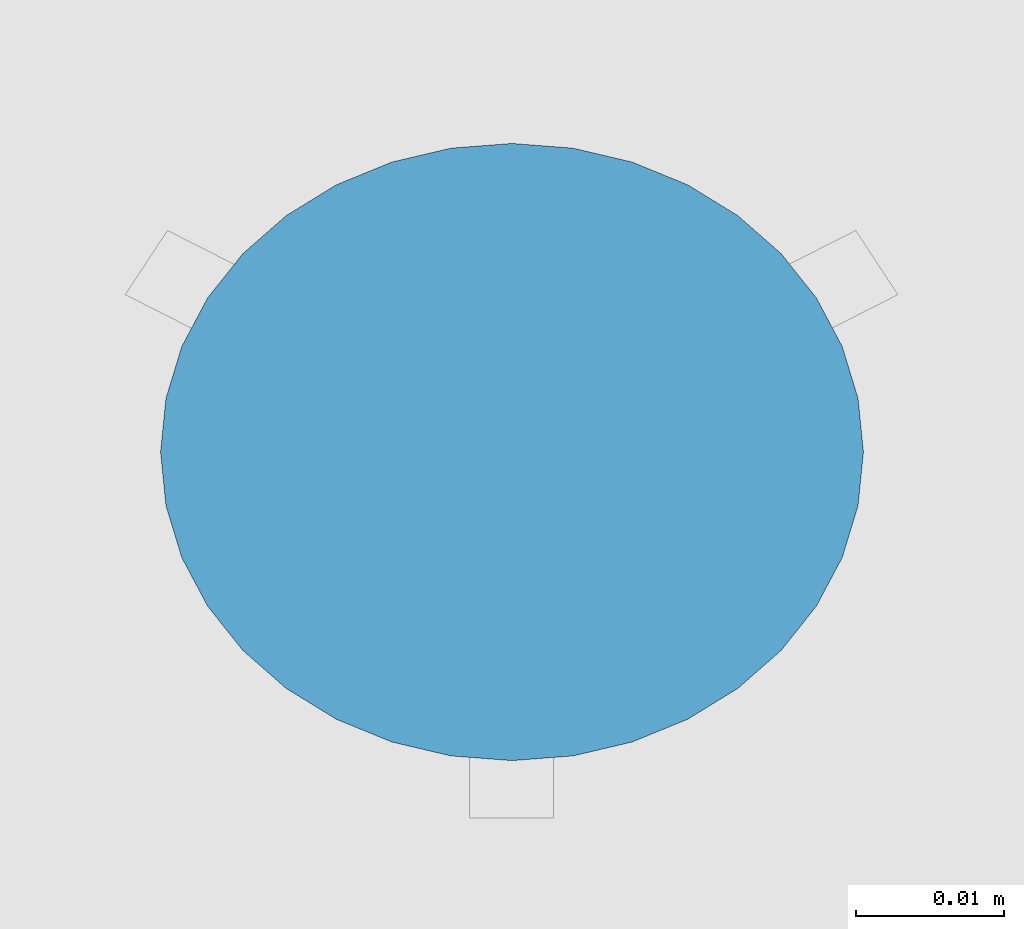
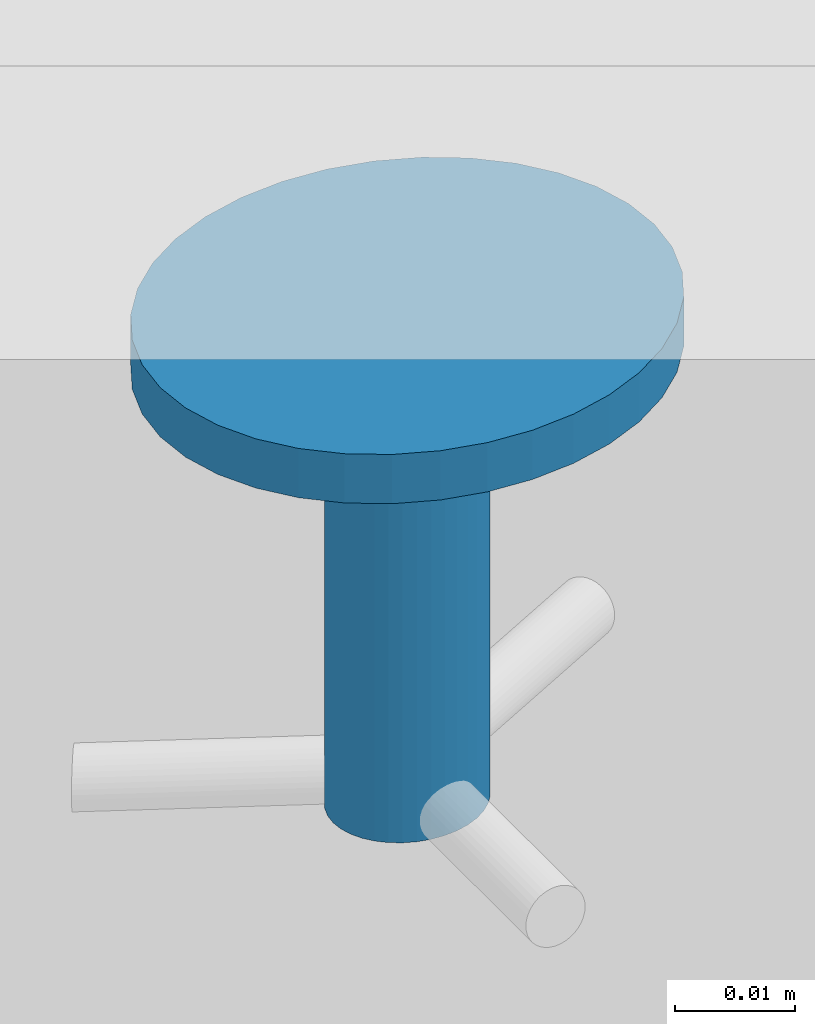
# One storey, part 76 of 788: 1 building element part, 1 element without a shape of its own.
"""IFC2X3 building model written with IfcOpenShell, lengths in millimetres."""

from ifc_helpers import new_model, entity, si_unit, converted_unit, derived_unit, money_unit, direction, frame, origin_with_axes, place, context, subcontext, project, spatial, faceted_brep, source, transform, mapped, material, type_object, element, aggregate, save


model = new_model("IFC2X3")

# Units and contexts
model_context = context("Model", 3, precision=0.01, world=origin_with_axes(), true_north=direction((0.0, 1.0)))
plan_context = context("Plan", 3, precision=0.01, world=origin_with_axes(), true_north=direction((0.0, 1.0)))
body_context = subcontext(model_context, "Body", "Model", "MODEL_VIEW")
ifc_project = project(units=[si_unit("LENGTHUNIT", "METRE", prefix="MILLI"), si_unit("AREAUNIT", "SQUARE_METRE"), si_unit("VOLUMEUNIT", "CUBIC_METRE"), converted_unit("PLANEANGLEUNIT", "DEGREE", entity("IfcPlaneAngleMeasure", 0.0174532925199), si_unit("PLANEANGLEUNIT", "RADIAN"), dimensions=[0, 0, 0, 0, 0, 0, 0]), money_unit("EUR"), converted_unit("TIMEUNIT", "Year", entity("IfcTimeMeasure", 31556926.0), si_unit("TIMEUNIT", "SECOND"), dimensions=[0, 0, 1, 0, 0, 0, 0]), si_unit("MASSUNIT", "GRAM", prefix="KILO"), si_unit("THERMODYNAMICTEMPERATUREUNIT", "DEGREE_CELSIUS"), si_unit("LUMINOUSINTENSITYUNIT", "LUMEN"), si_unit("ENERGYUNIT", "JOULE", prefix="MEGA"), derived_unit("THERMALCONDUCTANCEUNIT", [(si_unit("POWERUNIT", "WATT"), 1), (si_unit("LENGTHUNIT", "METRE"), -1), (si_unit("THERMODYNAMICTEMPERATUREUNIT", "KELVIN"), -1)]), derived_unit("SPECIFICHEATCAPACITYUNIT", [(si_unit("ENERGYUNIT", "JOULE"), 1), (si_unit("MASSUNIT", "GRAM", prefix="KILO"), -1), (si_unit("THERMODYNAMICTEMPERATUREUNIT", "KELVIN"), -1)]), derived_unit("MASSDENSITYUNIT", [(si_unit("MASSUNIT", "GRAM", prefix="KILO"), 1), (si_unit("VOLUMEUNIT", "CUBIC_METRE"), -1)])], contexts=[model_context, plan_context])

# Site, building, storey
site_placement = place(None, origin_with_axes())
site = spatial("IfcSite", under=ifc_project, at=site_placement, Name="Site", CompositionType="ELEMENT")
building_placement = place(site_placement, origin_with_axes())
building = spatial("IfcBuilding", under=site, at=building_placement, Name="Naam gebouw", CompositionType="ELEMENT")
storey_placement = place(building_placement, origin_with_axes())
storey = spatial("IfcBuildingStorey", under=building, at=storey_placement, Name="Begane grond", CompositionType="ELEMENT", Elevation=0.0)

# Proxy, building element part
building_element_proxy_type = type_object("IfcBuildingElementProxyType", Name="plafondhaak", PredefinedType="NOTDEFINED")
proxy_placement = place(storey_placement, frame((23247.4668708, 12755.4915081, 1211.0), z_axis=(0.0, 0.0, 1.0), x_axis=(0.0, -1.0, 0.0)))
proxy = element("IfcBuildingElementProxy", 1, at=proxy_placement, inside=storey, type_object=building_element_proxy_type, Name="garderobehaak")
ifc_material = material(Name="_Dichte arcering")
shared_shape = source(origin_with_axes(), body_context, "Body", "Brep", [
    faceted_brep([(-17.5871200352, 3.81461944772, 50.0), (-17.5871200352, 3.81461944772, 45.0), (-14.2952839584, 5.56266277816, 45.0), (-14.2952839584, 5.56266277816, 50.0), (-21.0954971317, 2.74408618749, 50.0), (-21.0954971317, 2.74408618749, 45.0), (-5.13338153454, 17.9967404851, 45.0), (-6.66838990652, 14.2480494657, 45.0), (-8.75169938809, 10.8598540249, 45.0), (-11.3200096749, 7.93510276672, 45.0), (-24.7138149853, 2.38359060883, 45.0), (-28.3321328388, 2.74408618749, 45.0), (-31.8405099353, 3.81461944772, 45.0), (-35.1323460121, 5.56266277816, 45.0), (-38.1076202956, 7.93510276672, 45.0), (-40.6759305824, 10.8598540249, 45.0), (-42.759240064, 14.2480494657, 45.0), (-44.294248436, 17.9967404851, 45.0), (-45.2343152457, 21.9920250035, 45.0), (-45.550877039, 26.1125083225, 45.0), (-45.2343152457, 30.2329916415, 45.0), (-44.294248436, 34.2282761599, 45.0), (-42.759240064, 37.9769671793, 45.0), (-40.6759305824, 41.3651626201, 45.0), (-38.1076202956, 44.2899138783, 45.0), (-35.1323460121, 46.6623538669, 45.0), (-31.8405099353, 48.4103971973, 45.0), (-28.3321328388, 49.4809304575, 45.0), (-24.7138149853, 49.8414260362, 45.0), (-21.0954971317, 49.4809304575, 45.0), (-17.5871200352, 48.4103971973, 45.0), (-14.2952839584, 46.6623538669, 45.0), (-11.3200096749, 44.2899138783, 45.0), (-8.75169938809, 41.3651626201, 45.0), (-6.66838990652, 37.9769671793, 45.0), (-5.13338153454, 34.2282761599, 45.0), (-4.19331472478, 30.2329916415, 45.0), (-3.87675293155, 26.1125083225, 45.0), (-4.19331472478, 21.9920250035, 45.0), (-24.7138149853, 18.9938330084, 45.0), (-23.6283196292, 19.101981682, 45.0), (-22.5758065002, 19.4231416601, 45.0), (-21.5882556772, 19.9475546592, 45.0), (-20.6956733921, 20.6592866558, 45.0), (-19.9251803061, 21.5367120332, 45.0), (-19.3001874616, 22.5531706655, 45.0), (-18.83968495, 23.6777779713, 45.0), (-18.5576649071, 24.8763633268, 45.0), (-18.4626963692, 26.1125083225, 45.0), (-18.5576649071, 27.3486533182, 45.0), (-18.83968495, 28.5472386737, 45.0), (-19.3001874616, 29.6718459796, 45.0), (-19.9251803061, 30.6883046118, 45.0), (-20.6956733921, 31.5657299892, 45.0), (-21.5882556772, 32.2774619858, 45.0), (-22.5758065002, 32.8018749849, 45.0), (-23.6283196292, 33.123034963, 45.0), (-24.7138149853, 33.2311836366, 45.0), (-25.7993103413, 33.123034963, 45.0), (-26.8518234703, 32.8018749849, 45.0), (-27.8393742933, 32.2774619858, 45.0), (-28.7319565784, 31.5657299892, 45.0), (-29.5024496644, 30.6883046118, 45.0), (-30.1274425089, 29.6718459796, 45.0), (-30.5879450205, 28.5472386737, 45.0), (-30.8699650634, 27.3486533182, 45.0), (-30.9649336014, 26.1125083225, 45.0), (-30.8699650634, 24.8763633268, 45.0), (-30.5879450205, 23.6777779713, 45.0), (-30.1274425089, 22.5531706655, 45.0), (-29.5024496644, 21.5367120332, 45.0), (-28.7319565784, 20.6592866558, 45.0), (-27.8393742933, 19.9475546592, 45.0), (-26.8518234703, 19.4231416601, 45.0), (-25.7993103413, 19.101981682, 45.0), (-11.3200096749, 7.93510276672, 50.0), (-8.75169938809, 10.8598540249, 50.0), (-6.66838990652, 14.2480494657, 50.0), (-5.13338153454, 17.9967404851, 50.0), (-4.19331472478, 21.9920250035, 50.0), (-3.87675293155, 26.1125083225, 50.0), (-4.19331472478, 30.2329916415, 50.0), (-5.13338153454, 34.2282761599, 50.0), (-6.66838990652, 37.9769671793, 50.0), (-8.75169938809, 41.3651626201, 50.0), (-11.3200096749, 44.2899138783, 50.0), (-14.2952839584, 46.6623538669, 50.0), (-17.5871200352, 48.4103971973, 50.0), (-21.0954971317, 49.4809304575, 50.0), (-24.7138149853, 49.8414260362, 50.0), (-28.3321328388, 49.4809304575, 50.0), (-31.8405099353, 48.4103971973, 50.0), (-35.1323460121, 46.6623538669, 50.0), (-38.1076202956, 44.2899138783, 50.0), (-40.6759305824, 41.3651626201, 50.0), (-42.759240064, 37.9769671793, 50.0), (-44.294248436, 34.2282761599, 50.0), (-45.2343152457, 30.2329916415, 50.0), (-45.550877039, 26.1125083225, 50.0), (-45.2343152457, 21.9920250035, 50.0), (-44.294248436, 17.9967404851, 50.0), (-42.759240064, 14.2480494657, 50.0), (-40.6759305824, 10.8598540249, 50.0), (-38.1076202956, 7.93510276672, 50.0), (-35.1323460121, 5.56266277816, 50.0), (-31.8405099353, 3.81461944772, 50.0), (-28.3321328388, 2.74408618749, 50.0), (-24.7138149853, 2.38359060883, 50.0), (-24.7138149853, 18.9938330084, 0.0), (-23.6283196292, 19.101981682, 0.0), (-22.5758065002, 19.4231416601, 0.0), (-21.5882556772, 19.9475546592, 0.0), (-20.6956733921, 20.6592866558, 0.0), (-19.9251803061, 21.5367120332, 0.0), (-19.3001874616, 22.5531706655, 0.0), (-18.83968495, 23.6777779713, 0.0), (-18.5576649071, 24.8763633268, 0.0), (-18.4626963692, 26.1125083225, 0.0), (-18.5576649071, 27.3486533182, 0.0), (-18.83968495, 28.5472386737, 0.0), (-19.3001874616, 29.6718459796, 0.0), (-19.9251803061, 30.6883046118, 0.0), (-20.6956733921, 31.5657299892, 0.0), (-21.5882556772, 32.2774619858, 0.0), (-22.5758065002, 32.8018749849, 0.0), (-23.6283196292, 33.123034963, 0.0), (-24.7138149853, 33.2311836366, 0.0), (-25.7993103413, 33.123034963, 0.0), (-26.8518234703, 32.8018749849, 0.0), (-27.8393742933, 32.2774619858, 0.0), (-28.7319565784, 31.5657299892, 0.0), (-29.5024496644, 30.6883046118, 0.0), (-30.1274425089, 29.6718459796, 0.0), (-30.5879450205, 28.5472386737, 0.0), (-30.8699650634, 27.3486533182, 0.0), (-30.9649336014, 26.1125083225, 0.0), (-30.8699650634, 24.8763633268, 0.0), (-30.5879450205, 23.6777779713, 0.0), (-30.1274425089, 22.5531706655, 0.0), (-29.5024496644, 21.5367120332, 0.0), (-28.7319565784, 20.6592866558, 0.0), (-27.8393742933, 19.9475546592, 0.0), (-26.8518234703, 19.4231416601, 0.0), (-25.7993103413, 19.101981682, 0.0)], [[[0, 1, 2, 3]], [[0, 4, 5, 1]], [[6, 7, 8, 9, 2, 1, 5, 10, 11, 12, 13, 14, 15, 16, 17, 18, 19, 20, 21, 22, 23, 24, 25, 26, 27, 28, 29, 30, 31, 32, 33, 34, 35, 36, 37, 38], [39, 40, 41, 42, 43, 44, 45, 46, 47, 48, 49, 50, 51, 52, 53, 54, 55, 56, 57, 58, 59, 60, 61, 62, 63, 64, 65, 66, 67, 68, 69, 70, 71, 72, 73, 74]], [[3, 2, 9, 75]], [[3, 75, 76, 77, 78, 79, 80, 81, 82, 83, 84, 85, 86, 87, 88, 89, 90, 91, 92, 93, 94, 95, 96, 97, 98, 99, 100, 101, 102, 103, 104, 105, 106, 107, 4, 0]], [[107, 10, 5, 4]], [[77, 7, 6, 78]], [[76, 8, 7, 77]], [[9, 8, 76, 75]], [[106, 11, 10, 107]], [[105, 12, 11, 106]], [[104, 13, 12, 105]], [[103, 14, 13, 104]], [[103, 102, 15, 14]], [[102, 101, 16, 15]], [[100, 17, 16, 101]], [[99, 18, 17, 100]], [[98, 19, 18, 99]], [[97, 20, 19, 98]], [[96, 21, 20, 97]], [[95, 22, 21, 96]], [[94, 23, 22, 95]], [[93, 24, 23, 94]], [[92, 25, 24, 93]], [[91, 26, 25, 92]], [[90, 27, 26, 91]], [[89, 28, 27, 90]], [[88, 29, 28, 89]], [[30, 29, 88, 87]], [[31, 30, 87, 86]], [[32, 31, 86, 85]], [[33, 32, 85, 84]], [[83, 34, 33, 84]], [[82, 35, 34, 83]], [[81, 36, 35, 82]], [[80, 37, 36, 81]], [[79, 38, 37, 80]], [[78, 6, 38, 79]], [[40, 39, 108, 109]], [[41, 40, 109, 110]], [[110, 111, 42, 41]], [[43, 42, 111, 112]], [[112, 113, 44, 43]], [[113, 114, 45, 44]], [[114, 115, 46, 45]], [[47, 46, 115, 116]], [[116, 117, 48, 47]], [[117, 118, 49, 48]], [[118, 119, 50, 49]], [[119, 120, 51, 50]], [[120, 121, 52, 51]], [[53, 52, 121, 122]], [[122, 123, 54, 53]], [[123, 124, 55, 54]], [[124, 125, 56, 55]], [[125, 126, 57, 56]], [[58, 57, 126, 127]], [[59, 58, 127, 128]], [[60, 59, 128, 129]], [[129, 130, 61, 60]], [[130, 131, 62, 61]], [[131, 132, 63, 62]], [[64, 63, 132, 133]], [[65, 64, 133, 134]], [[66, 65, 134, 135]], [[135, 136, 67, 66]], [[68, 67, 136, 137]], [[137, 138, 69, 68]], [[70, 69, 138, 139]], [[71, 70, 139, 140]], [[72, 71, 140, 141]], [[73, 72, 141, 142]], [[74, 73, 142, 143]], [[39, 74, 143, 108]], [[109, 108, 143, 142, 141, 140, 139, 138, 137, 136, 135, 134, 133, 132, 131, 130, 129, 128, 127, 126, 125, 124, 123, 122, 121, 120, 119, 118, 117, 116, 115, 114, 113, 112, 111, 110]]]),
])
building_element_part_placement = place(proxy_placement, origin_with_axes())
building_element_part = element("IfcBuildingElementPart", 2, at=building_element_part_placement, material=ifc_material, Name="_Dichte arcering", context=body_context, shape_type="MappedRepresentation", body=[
    mapped(shared_shape, transform((0.0, 0.0, 0.0))),
])
aggregate(proxy, [building_element_part])

save(model, "model.ifc")
